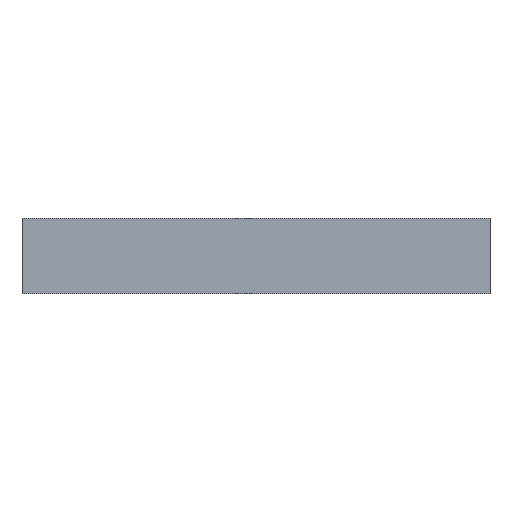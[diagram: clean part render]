
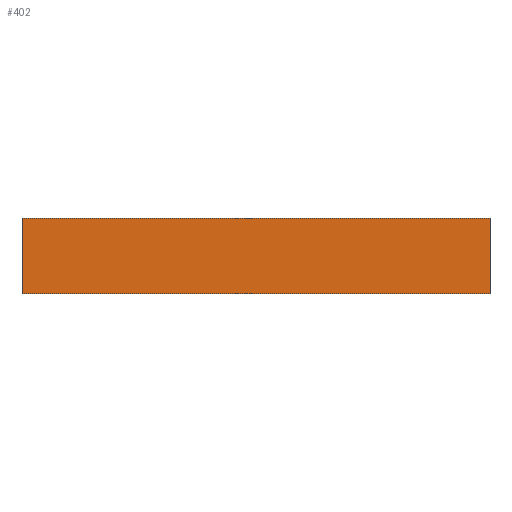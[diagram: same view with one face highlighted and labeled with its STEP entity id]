
A CAD part, front view. The second image highlights one B-rep face of the part: STEP entity #402.
In plain terms, the highlighted planar face has unit normal (0, -1, 0).
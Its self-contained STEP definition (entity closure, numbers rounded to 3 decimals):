
#18 = EDGE_CURVE ( 'NONE', #685, #709, #274, .T. ) ;
#50 = EDGE_CURVE ( 'NONE', #674, #685, #228, .T. ) ;
#71 = EDGE_CURVE ( 'NONE', #674, #691, #194, .T. ) ;
#73 = AXIS2_PLACEMENT_3D ( 'NONE', #510, #502, #501 ) ;
#74 = EDGE_CURVE ( 'NONE', #691, #709, #190, .T. ) ;
#144 = FACE_OUTER_BOUND ( 'NONE', #289, .T. ) ;
#189 = VECTOR ( 'NONE', #612, 1000. ) ;
#190 = LINE ( 'NONE', #613, #189 ) ;
#193 = VECTOR ( 'NONE', #618, 1000. ) ;
#194 = LINE ( 'NONE', #619, #193 ) ;
#227 = VECTOR ( 'NONE', #669, 1000. ) ;
#228 = LINE ( 'NONE', #671, #227 ) ;
#270 = VECTOR ( 'NONE', #538, 1000. ) ;
#274 = LINE ( 'NONE', #553, #270 ) ;
#289 = EDGE_LOOP ( 'NONE', ( #324, #325, #326, #327 ) ) ;
#324 = ORIENTED_EDGE ( 'NONE', *, *, #18, .T. ) ;
#325 = ORIENTED_EDGE ( 'NONE', *, *, #74, .F. ) ;
#326 = ORIENTED_EDGE ( 'NONE', *, *, #71, .F. ) ;
#327 = ORIENTED_EDGE ( 'NONE', *, *, #50, .T. ) ;
#402 = ADVANCED_FACE ( 'NONE', ( #144 ), #524, .F. ) ;
#438 = CARTESIAN_POINT ( 'NONE',  ( 201., 0., 0. ) ) ;
#443 = CARTESIAN_POINT ( 'NONE',  ( 201., 0., 65. ) ) ;
#445 = CARTESIAN_POINT ( 'NONE',  ( -201., 0., 0. ) ) ;
#449 = CARTESIAN_POINT ( 'NONE',  ( -201., 0., 65. ) ) ;
#501 = DIRECTION ( 'NONE',  ( -1., 0., 0. ) ) ;
#502 = DIRECTION ( 'NONE',  ( 0., 1., 0. ) ) ;
#510 = CARTESIAN_POINT ( 'NONE',  ( -201., 0., 65. ) ) ;
#524 = PLANE ( 'NONE',  #73 ) ;
#538 = DIRECTION ( 'NONE',  ( 1., 0., 0. ) ) ;
#553 = CARTESIAN_POINT ( 'NONE',  ( -201., 0., 0. ) ) ;
#612 = DIRECTION ( 'NONE',  ( 0., 0., -1. ) ) ;
#613 = CARTESIAN_POINT ( 'NONE',  ( 201., 0., 65. ) ) ;
#618 = DIRECTION ( 'NONE',  ( 1., 0., 0. ) ) ;
#619 = CARTESIAN_POINT ( 'NONE',  ( -201., 0., 65. ) ) ;
#669 = DIRECTION ( 'NONE',  ( 0., 0., -1. ) ) ;
#671 = CARTESIAN_POINT ( 'NONE',  ( -201., 0., 65. ) ) ;
#674 = VERTEX_POINT ( 'NONE', #449 ) ;
#685 = VERTEX_POINT ( 'NONE', #445 ) ;
#691 = VERTEX_POINT ( 'NONE', #443 ) ;
#709 = VERTEX_POINT ( 'NONE', #438 ) ;
